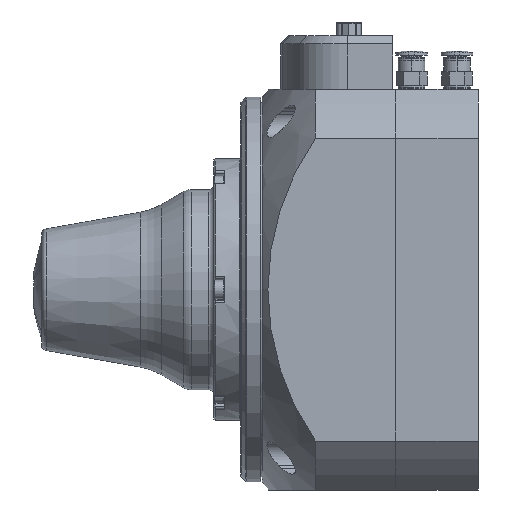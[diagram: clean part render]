
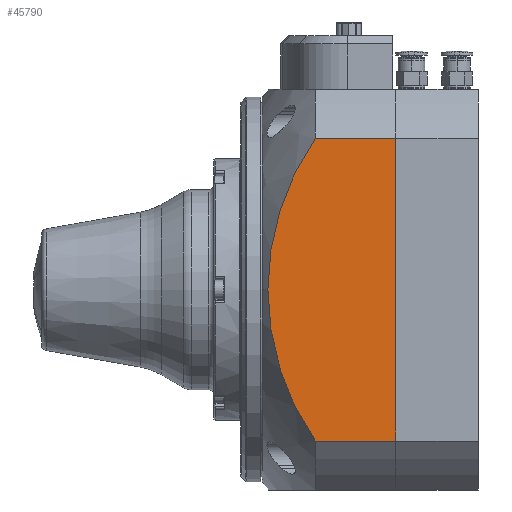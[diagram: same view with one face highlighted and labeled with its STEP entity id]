
A CAD part, left-side view. The second image highlights one B-rep face of the part: STEP entity #45790.
In plain terms, the highlighted planar face has unit normal (-1, 0, 0).
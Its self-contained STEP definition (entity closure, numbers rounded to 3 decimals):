
#3840 = ORIENTED_EDGE ( 'NONE', *, *, #46982, .T. ) ;
#7153 = AXIS2_PLACEMENT_3D ( 'NONE', #44963, #87240, #94952 ) ;
#8116 = LINE ( 'NONE', #76906, #61859 ) ;
#10509 = ORIENTED_EDGE ( 'NONE', *, *, #26034, .T. ) ;
#12299 = VERTEX_POINT ( 'NONE', #71952 ) ;
#13303 = CARTESIAN_POINT ( 'NONE',  ( -75., 0., -56.666 ) ) ;
#14034 = CARTESIAN_POINT ( 'NONE',  ( -75., 0., -56.666 ) ) ;
#16209 = EDGE_CURVE ( 'NONE', #21574, #12299, #93636, .T. ) ;
#18150 = CARTESIAN_POINT ( 'NONE',  ( -75., 30., 56.666 ) ) ;
#21574 = VERTEX_POINT ( 'NONE', #65335 ) ;
#22898 = LINE ( 'NONE', #106392, #25547 ) ;
#25547 = VECTOR ( 'NONE', #98744, 1000. ) ;
#26034 = EDGE_CURVE ( 'NONE', #83976, #21574, #44113, .T. ) ;
#28665 = ORIENTED_EDGE ( 'NONE', *, *, #35904, .F. ) ;
#32847 = DIRECTION ( 'NONE',  ( 0., 0., -1. ) ) ;
#35904 = EDGE_CURVE ( 'NONE', #73535, #12299, #84097, .T. ) ;
#40103 = CARTESIAN_POINT ( 'NONE',  ( -75., 50., -75. ) ) ;
#40947 = CARTESIAN_POINT ( 'NONE',  ( -75., -51.3, 0. ) ) ;
#44113 = CIRCLE ( 'NONE', #7153, 99.099 ) ;
#44963 = CARTESIAN_POINT ( 'NONE',  ( -75., -51.3, 0. ) ) ;
#45425 = FACE_OUTER_BOUND ( 'NONE', #55750, .T. ) ;
#45599 = CARTESIAN_POINT ( 'NONE',  ( -75., 0., 56.666 ) ) ;
#45790 = ADVANCED_FACE ( 'NONE', ( #45425 ), #49629, .F. ) ;
#46982 = EDGE_CURVE ( 'NONE', #100157, #83976, #22898, .T. ) ;
#49629 = PLANE ( 'NONE',  #56057 ) ;
#55750 = EDGE_LOOP ( 'NONE', ( #3840, #10509, #88912, #28665, #91795 ) ) ;
#56057 = AXIS2_PLACEMENT_3D ( 'NONE', #40103, #98883, #66162 ) ;
#61859 = VECTOR ( 'NONE', #104382, 1000. ) ;
#64635 = DIRECTION ( 'NONE',  ( 0., 1., 0. ) ) ;
#65335 = CARTESIAN_POINT ( 'NONE',  ( -75., 47.799, 0. ) ) ;
#66162 = DIRECTION ( 'NONE',  ( 0., 0., -1. ) ) ;
#71952 = CARTESIAN_POINT ( 'NONE',  ( -75., 30., -56.666 ) ) ;
#73535 = VERTEX_POINT ( 'NONE', #13303 ) ;
#73754 = EDGE_CURVE ( 'NONE', #73535, #100157, #8116, .T. ) ;
#76906 = CARTESIAN_POINT ( 'NONE',  ( -75., 0., -75. ) ) ;
#82727 = VECTOR ( 'NONE', #64635, 1000. ) ;
#83528 = DIRECTION ( 'NONE',  ( -1., 0., 0. ) ) ;
#83976 = VERTEX_POINT ( 'NONE', #18150 ) ;
#84097 = LINE ( 'NONE', #14034, #82727 ) ;
#85898 = AXIS2_PLACEMENT_3D ( 'NONE', #40947, #83528, #32847 ) ;
#87240 = DIRECTION ( 'NONE',  ( -1., 0., 0. ) ) ;
#88912 = ORIENTED_EDGE ( 'NONE', *, *, #16209, .T. ) ;
#91795 = ORIENTED_EDGE ( 'NONE', *, *, #73754, .T. ) ;
#93636 = CIRCLE ( 'NONE', #85898, 99.099 ) ;
#94952 = DIRECTION ( 'NONE',  ( 0., 0., -1. ) ) ;
#98744 = DIRECTION ( 'NONE',  ( 0., 1., 0. ) ) ;
#98883 = DIRECTION ( 'NONE',  ( 1., 0., 0. ) ) ;
#100157 = VERTEX_POINT ( 'NONE', #45599 ) ;
#104382 = DIRECTION ( 'NONE',  ( 0., 0., 1. ) ) ;
#106392 = CARTESIAN_POINT ( 'NONE',  ( -75., 0., 56.666 ) ) ;
